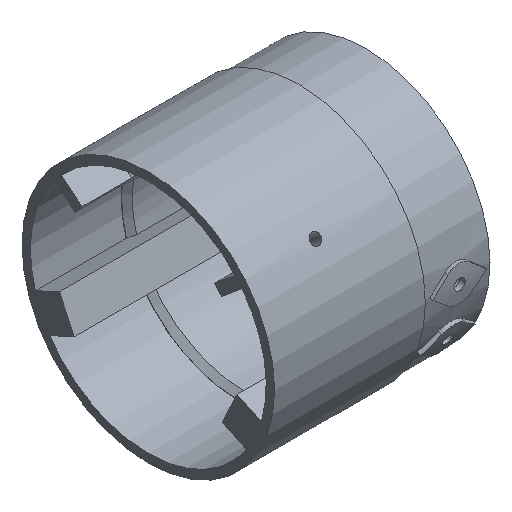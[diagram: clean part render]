
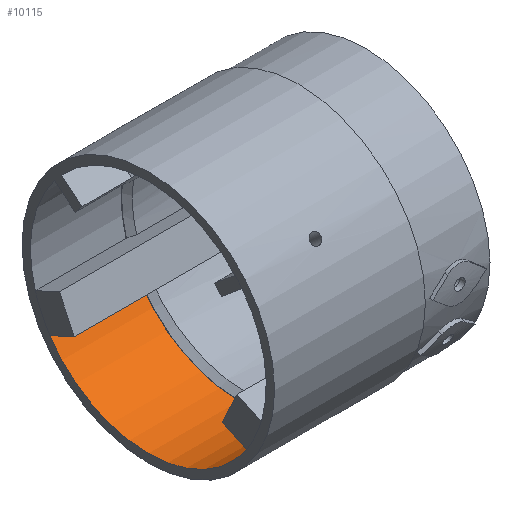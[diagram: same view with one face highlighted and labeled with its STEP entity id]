
A CAD part, isometric view. The second image highlights one B-rep face of the part: STEP entity #10115.
In plain terms, the highlighted cylindrical face has radius 17.6 mm (diameter 35.2 mm), a partial arc.
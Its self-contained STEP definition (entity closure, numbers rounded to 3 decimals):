
#43 = PLANE('',#44);
#44 = AXIS2_PLACEMENT_3D('',#45,#46,#47);
#45 = CARTESIAN_POINT('',(347.5,0.,0.));
#46 = DIRECTION('',(1.,0.,0.));
#47 = DIRECTION('',(-0.,0.,1.));
#2212 = VERTEX_POINT('',#2213);
#2213 = CARTESIAN_POINT('',(347.5,14.677,-9.713
    ));
#2227 = PLANE('',#2228);
#2228 = AXIS2_PLACEMENT_3D('',#2229,#2230,#2231);
#2229 = CARTESIAN_POINT('',(347.5,11.046,-8.019
    ));
#2230 = DIRECTION('',(0.,0.423,0.906));
#2231 = DIRECTION('',(1.,0.,0.));
#2264 = EDGE_CURVE('',#2212,#2265,#2267,.T.);
#2265 = VERTEX_POINT('',#2266);
#2266 = CARTESIAN_POINT('',(361.1,14.677,-9.713));
#2267 = SURFACE_CURVE('',#2268,(#2272,#2278),.PCURVE_S1.);
#2268 = LINE('',#2269,#2270);
#2269 = CARTESIAN_POINT('',(346.5,14.677,-9.713));
#2270 = VECTOR('',#2271,1.);
#2271 = DIRECTION('',(1.,0.,0.));
#2272 = PCURVE('',#2227,#2273);
#2273 = DEFINITIONAL_REPRESENTATION('',(#2274),#2277);
#2274 = B_SPLINE_CURVE_WITH_KNOTS('',1,(#2275,#2276),.UNSPECIFIED.,.F.,
  .F.,(2,2),(1.,14.6),.PIECEWISE_BEZIER_KNOTS.);
#2275 = CARTESIAN_POINT('',(0.,4.007));
#2276 = CARTESIAN_POINT('',(13.6,4.007));
#2277 = ( GEOMETRIC_REPRESENTATION_CONTEXT(2) 
PARAMETRIC_REPRESENTATION_CONTEXT() REPRESENTATION_CONTEXT('2D SPACE',''
  ) );
#2278 = PCURVE('',#2279,#2284);
#2279 = CYLINDRICAL_SURFACE('',#2280,17.6);
#2280 = AXIS2_PLACEMENT_3D('',#2281,#2282,#2283);
#2281 = CARTESIAN_POINT('',(346.5,0.,0.));
#2282 = DIRECTION('',(1.,0.,0.));
#2283 = DIRECTION('',(-0.,0.,1.));
#2284 = DEFINITIONAL_REPRESENTATION('',(#2285),#2288);
#2285 = B_SPLINE_CURVE_WITH_KNOTS('',1,(#2286,#2287),.UNSPECIFIED.,.F.,
  .F.,(2,2),(1.,14.6),.PIECEWISE_BEZIER_KNOTS.);
#2286 = CARTESIAN_POINT('',(4.128,1.));
#2287 = CARTESIAN_POINT('',(4.128,14.6));
#2288 = ( GEOMETRIC_REPRESENTATION_CONTEXT(2) 
PARAMETRIC_REPRESENTATION_CONTEXT() REPRESENTATION_CONTEXT('2D SPACE',''
  ) );
#2406 = PLANE('',#2407);
#2407 = AXIS2_PLACEMENT_3D('',#2408,#2409,#2410);
#2408 = CARTESIAN_POINT('',(361.1,0.,0.));
#2409 = DIRECTION('',(1.,0.,0.));
#2410 = DIRECTION('',(-0.,0.,1.));
#2774 = PLANE('',#2775);
#2775 = AXIS2_PLACEMENT_3D('',#2776,#2777,#2778);
#2776 = CARTESIAN_POINT('',(347.5,-11.046,
    -8.019));
#2777 = DIRECTION('',(0.,0.423,-0.906));
#2778 = DIRECTION('',(1.,0.,0.));
#2789 = EDGE_CURVE('',#2790,#2792,#2794,.T.);
#2790 = VERTEX_POINT('',#2791);
#2791 = CARTESIAN_POINT('',(347.5,-14.677,
    -9.713));
#2792 = VERTEX_POINT('',#2793);
#2793 = CARTESIAN_POINT('',(361.1,-14.677,-9.713));
#2794 = SURFACE_CURVE('',#2795,(#2799,#2805),.PCURVE_S1.);
#2795 = LINE('',#2796,#2797);
#2796 = CARTESIAN_POINT('',(346.5,-14.677,-9.713));
#2797 = VECTOR('',#2798,1.);
#2798 = DIRECTION('',(1.,0.,0.));
#2799 = PCURVE('',#2774,#2800);
#2800 = DEFINITIONAL_REPRESENTATION('',(#2801),#2804);
#2801 = B_SPLINE_CURVE_WITH_KNOTS('',1,(#2802,#2803),.UNSPECIFIED.,.F.,
  .F.,(2,2),(1.,14.6),.PIECEWISE_BEZIER_KNOTS.);
#2802 = CARTESIAN_POINT('',(0.,4.007));
#2803 = CARTESIAN_POINT('',(13.6,4.007));
#2804 = ( GEOMETRIC_REPRESENTATION_CONTEXT(2) 
PARAMETRIC_REPRESENTATION_CONTEXT() REPRESENTATION_CONTEXT('2D SPACE',''
  ) );
#2805 = PCURVE('',#2279,#2806);
#2806 = DEFINITIONAL_REPRESENTATION('',(#2807),#2810);
#2807 = B_SPLINE_CURVE_WITH_KNOTS('',1,(#2808,#2809),.UNSPECIFIED.,.F.,
  .F.,(2,2),(1.,14.6),.PIECEWISE_BEZIER_KNOTS.);
#2808 = CARTESIAN_POINT('',(2.155,1.));
#2809 = CARTESIAN_POINT('',(2.155,14.6));
#2810 = ( GEOMETRIC_REPRESENTATION_CONTEXT(2) 
PARAMETRIC_REPRESENTATION_CONTEXT() REPRESENTATION_CONTEXT('2D SPACE',''
  ) );
#10094 = EDGE_CURVE('',#2792,#2265,#10095,.T.);
#10095 = SURFACE_CURVE('',#10096,(#10101,#10108),.PCURVE_S1.);
#10096 = CIRCLE('',#10097,17.6);
#10097 = AXIS2_PLACEMENT_3D('',#10098,#10099,#10100);
#10098 = CARTESIAN_POINT('',(361.1,0.,0.));
#10099 = DIRECTION('',(1.,0.,0.));
#10100 = DIRECTION('',(-0.,0.,1.));
#10101 = PCURVE('',#2406,#10102);
#10102 = DEFINITIONAL_REPRESENTATION('',(#10103),#10107);
#10103 = CIRCLE('',#10104,17.6);
#10104 = AXIS2_PLACEMENT_2D('',#10105,#10106);
#10105 = CARTESIAN_POINT('',(0.,0.));
#10106 = DIRECTION('',(1.,0.));
#10107 = ( GEOMETRIC_REPRESENTATION_CONTEXT(2) 
PARAMETRIC_REPRESENTATION_CONTEXT() REPRESENTATION_CONTEXT('2D SPACE',''
  ) );
#10108 = PCURVE('',#2279,#10109);
#10109 = DEFINITIONAL_REPRESENTATION('',(#10110),#10114);
#10110 = LINE('',#10111,#10112);
#10111 = CARTESIAN_POINT('',(0.,14.6));
#10112 = VECTOR('',#10113,1.);
#10113 = DIRECTION('',(1.,0.));
#10114 = ( GEOMETRIC_REPRESENTATION_CONTEXT(2) 
PARAMETRIC_REPRESENTATION_CONTEXT() REPRESENTATION_CONTEXT('2D SPACE',''
  ) );
#10115 = ADVANCED_FACE('',(#10116),#2279,.F.);
#10116 = FACE_BOUND('',#10117,.F.);
#10117 = EDGE_LOOP('',(#10118,#10119,#10141,#10142));
#10118 = ORIENTED_EDGE('',*,*,#2789,.F.);
#10119 = ORIENTED_EDGE('',*,*,#10120,.T.);
#10120 = EDGE_CURVE('',#2790,#2212,#10121,.T.);
#10121 = SURFACE_CURVE('',#10122,(#10127,#10134),.PCURVE_S1.);
#10122 = CIRCLE('',#10123,17.6);
#10123 = AXIS2_PLACEMENT_3D('',#10124,#10125,#10126);
#10124 = CARTESIAN_POINT('',(347.5,0.,0.));
#10125 = DIRECTION('',(1.,0.,0.));
#10126 = DIRECTION('',(-0.,0.,1.));
#10127 = PCURVE('',#2279,#10128);
#10128 = DEFINITIONAL_REPRESENTATION('',(#10129),#10133);
#10129 = LINE('',#10130,#10131);
#10130 = CARTESIAN_POINT('',(0.,1.));
#10131 = VECTOR('',#10132,1.);
#10132 = DIRECTION('',(1.,0.));
#10133 = ( GEOMETRIC_REPRESENTATION_CONTEXT(2) 
PARAMETRIC_REPRESENTATION_CONTEXT() REPRESENTATION_CONTEXT('2D SPACE',''
  ) );
#10134 = PCURVE('',#43,#10135);
#10135 = DEFINITIONAL_REPRESENTATION('',(#10136),#10140);
#10136 = CIRCLE('',#10137,17.6);
#10137 = AXIS2_PLACEMENT_2D('',#10138,#10139);
#10138 = CARTESIAN_POINT('',(0.,0.));
#10139 = DIRECTION('',(1.,0.));
#10140 = ( GEOMETRIC_REPRESENTATION_CONTEXT(2) 
PARAMETRIC_REPRESENTATION_CONTEXT() REPRESENTATION_CONTEXT('2D SPACE',''
  ) );
#10141 = ORIENTED_EDGE('',*,*,#2264,.T.);
#10142 = ORIENTED_EDGE('',*,*,#10094,.F.);
